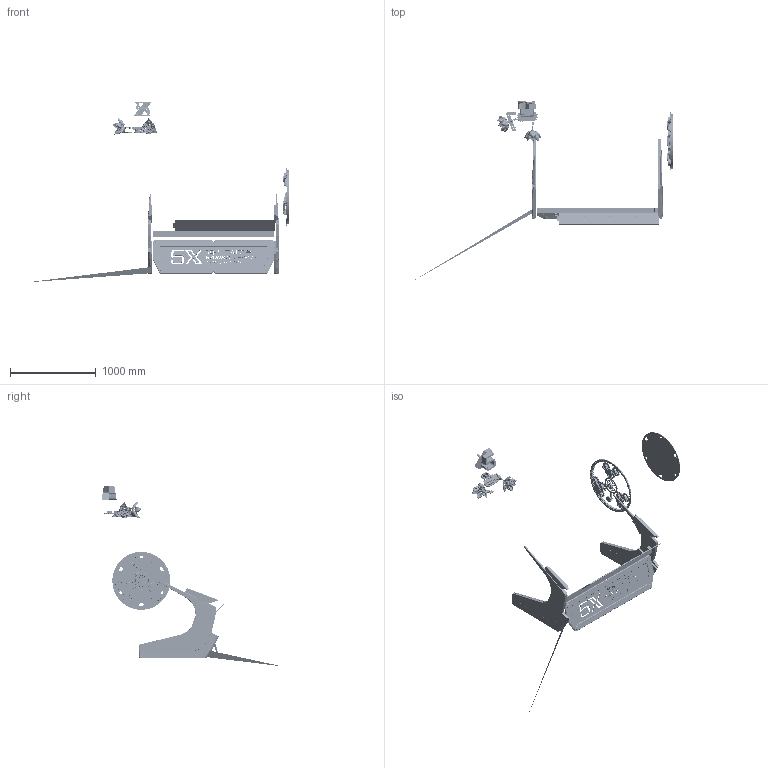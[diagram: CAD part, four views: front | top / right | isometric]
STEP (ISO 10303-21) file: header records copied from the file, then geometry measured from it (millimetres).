
FILE_DESCRIPTION((''),'2;1');
FILE_NAME('C:\Users\user\AppData\Local\Temp\Mastercam 2021\5EUK12AIA6\TEMP.stp','2024-05-27T10:11:08',(''),(''),'STEP Write','Mastercam 2021 ... CNC Software, Inc.','');
FILE_SCHEMA(('AUTOMOTIVE_DESIGN'));
Length unit declared in the file: millimetre
Products named in the file (1): None
Bounding box: 3877.5 x 2116.47 x 2112.35 mm (x, y, z)
Volume: 47746458.5 mm3; surface area: 7325469 mm2
Topology: 270 solids, 270 shells, 13270 faces, 33052 edges, 20684 vertices
Faces by surface type: cylinder 4836, plane 4402, cone 2614, bspline 830, torus 524, sphere 64
Full cylindrical faces by diameter (mm): 1.6 x36, 2.5 x140, 3.5 x106, 3.78 x24, 3.85 x24, 4 x13, 4.2 x143, 4.4 x26, 4.5 x2, 5 x6, 5.2 x8, 5.4 x2, 5.5 x154, 7 x6, 8 x2, 10 x4, 13 x4, 15 x31, 15.3 x1, 15.4 x4, 17 x12, 21.7 x12, 22 x12, 25 x9, 26 x24, 30 x3, 30.4 x2, 37 x1, 40 x5, 44 x23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
Entity records: 445733 total; most frequent: CARTESIAN_POINT 124942, DIRECTION 66429, ORIENTED_EDGE 60176, EDGE_CURVE 30088, AXIS2_PLACEMENT_3D 25370, VERTEX_POINT 18826, VECTOR 15689, LINE 15689
